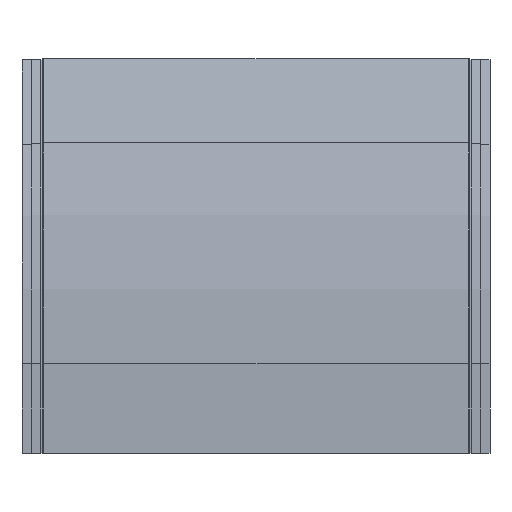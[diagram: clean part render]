
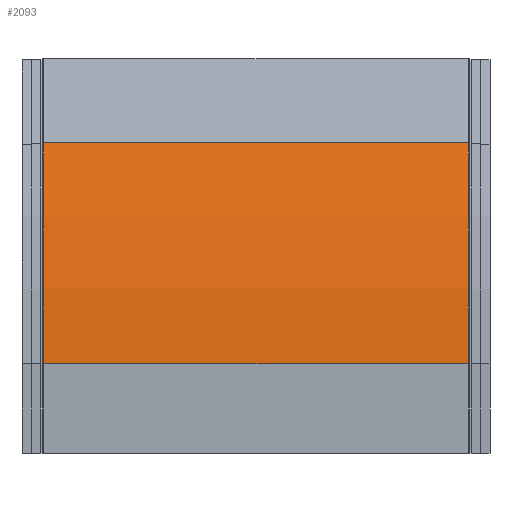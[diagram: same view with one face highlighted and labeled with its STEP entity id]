
A CAD part, front view. The second image highlights one B-rep face of the part: STEP entity #2093.
In plain terms, the highlighted cylindrical face has radius 576.7 mm (diameter 1153.4 mm), a partial arc.
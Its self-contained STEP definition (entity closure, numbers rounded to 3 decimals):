
#52 = DIRECTION ( 'NONE',  ( -1., 0., 0. ) ) ;
#91 = ORIENTED_EDGE ( 'NONE', *, *, #2148, .F. ) ;
#105 = CARTESIAN_POINT ( 'NONE',  ( -189.5, -76.7, 80. ) ) ;
#195 = CARTESIAN_POINT ( 'NONE',  ( 189.5, -76.7, 80. ) ) ;
#230 = CARTESIAN_POINT ( 'NONE',  ( 0., 500., 80. ) ) ;
#357 = CARTESIAN_POINT ( 'NONE',  ( 189.5, 500., 80. ) ) ;
#378 = CIRCLE ( 'NONE', #426, 576.7 ) ;
#426 = AXIS2_PLACEMENT_3D ( 'NONE', #1598, #52, #2583 ) ;
#505 = DIRECTION ( 'NONE',  ( -1., 0., 0. ) ) ;
#620 = DIRECTION ( 'NONE',  ( 0., 0., 1. ) ) ;
#752 = DIRECTION ( 'NONE',  ( 1., 0., 0. ) ) ;
#756 = CARTESIAN_POINT ( 'NONE',  ( 189.5, -41.921, 277.243 ) ) ;
#758 = DIRECTION ( 'NONE',  ( 0., 0., 1. ) ) ;
#869 = ORIENTED_EDGE ( 'NONE', *, *, #2344, .T. ) ;
#952 = CARTESIAN_POINT ( 'NONE',  ( 189.5, -41.921, 277.243 ) ) ;
#1058 = LINE ( 'NONE', #195, #2036 ) ;
#1140 = EDGE_CURVE ( 'NONE', #1547, #2638, #1058, .T. ) ;
#1183 = DIRECTION ( 'NONE',  ( 1., 0., 0. ) ) ;
#1296 = EDGE_CURVE ( 'NONE', #2539, #2012, #3322, .T. ) ;
#1547 = VERTEX_POINT ( 'NONE', #105 ) ;
#1598 = CARTESIAN_POINT ( 'NONE',  ( -189.5, 500., 80. ) ) ;
#1754 = CARTESIAN_POINT ( 'NONE',  ( -189.5, -41.921, 277.243 ) ) ;
#1793 = CARTESIAN_POINT ( 'NONE',  ( 189.5, -76.7, 80. ) ) ;
#1911 = EDGE_LOOP ( 'NONE', ( #3110, #869, #2101, #91 ) ) ;
#2012 = VERTEX_POINT ( 'NONE', #756 ) ;
#2036 = VECTOR ( 'NONE', #752, 1000. ) ;
#2093 = ADVANCED_FACE ( 'NONE', ( #2100 ), #2699, .T. ) ;
#2101 = ORIENTED_EDGE ( 'NONE', *, *, #1296, .F. ) ;
#2100 = FACE_OUTER_BOUND ( 'NONE', #1911, .T. ) ;
#2148 = EDGE_CURVE ( 'NONE', #1547, #2539, #378, .T. ) ;
#2344 = EDGE_CURVE ( 'NONE', #2638, #2012, #2705, .T. ) ;
#2480 = AXIS2_PLACEMENT_3D ( 'NONE', #357, #2937, #620 ) ;
#2539 = VERTEX_POINT ( 'NONE', #1754 ) ;
#2583 = DIRECTION ( 'NONE',  ( 0., 0., 1. ) ) ;
#2638 = VERTEX_POINT ( 'NONE', #1793 ) ;
#2699 = CYLINDRICAL_SURFACE ( 'NONE', #2966, 576.7 ) ;
#2705 = CIRCLE ( 'NONE', #2480, 576.7 ) ;
#2880 = VECTOR ( 'NONE', #1183, 1000. ) ;
#2937 = DIRECTION ( 'NONE',  ( -1., 0., 0. ) ) ;
#2966 = AXIS2_PLACEMENT_3D ( 'NONE', #230, #505, #758 ) ;
#3110 = ORIENTED_EDGE ( 'NONE', *, *, #1140, .T. ) ;
#3322 = LINE ( 'NONE', #952, #2880 ) ;
